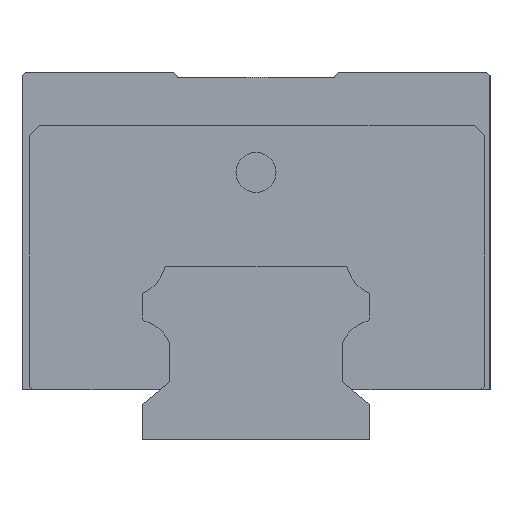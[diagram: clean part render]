
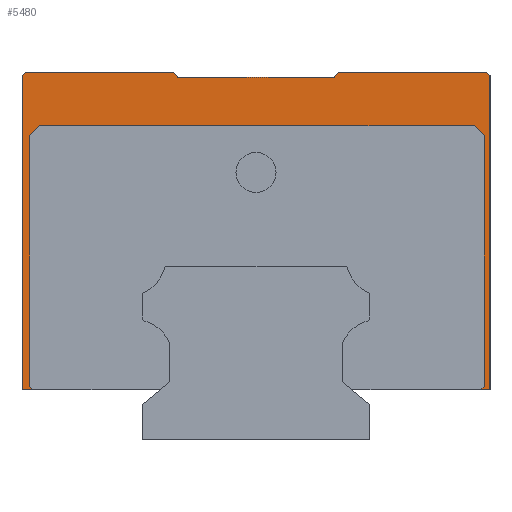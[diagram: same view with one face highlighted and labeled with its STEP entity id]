
A CAD part, left-side view. The second image highlights one B-rep face of the part: STEP entity #5480.
In plain terms, the highlighted planar face has unit normal (-1, 0, 0).
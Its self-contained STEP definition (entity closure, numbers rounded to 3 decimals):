
#90 = CARTESIAN_POINT ( 'NONE',  ( -39.5, 33.872, 8. ) ) ;
#116 = VERTEX_POINT ( 'NONE', #5495 ) ;
#129 = VECTOR ( 'NONE', #2929, 1000. ) ;
#159 = VERTEX_POINT ( 'NONE', #1956 ) ;
#194 = VECTOR ( 'NONE', #3862, 1000. ) ;
#202 = DIRECTION ( 'NONE',  ( 0., 1., 0. ) ) ;
#212 = CARTESIAN_POINT ( 'NONE',  ( -39.5, -33.628, 7.5 ) ) ;
#271 = CARTESIAN_POINT ( 'NONE',  ( -39.5, -35., 7.5 ) ) ;
#291 = EDGE_CURVE ( 'NONE', #2920, #2618, #4741, .T. ) ;
#298 = ORIENTED_EDGE ( 'NONE', *, *, #4988, .F. ) ;
#401 = CARTESIAN_POINT ( 'NONE',  ( -39.5, 34.5, 55. ) ) ;
#422 = LINE ( 'NONE', #886, #5327 ) ;
#490 = LINE ( 'NONE', #4486, #4830 ) ;
#496 = ORIENTED_EDGE ( 'NONE', *, *, #1206, .T. ) ;
#584 = LINE ( 'NONE', #90, #5305 ) ;
#608 = ORIENTED_EDGE ( 'NONE', *, *, #291, .F. ) ;
#642 = FACE_OUTER_BOUND ( 'NONE', #5741, .T. ) ;
#645 = ORIENTED_EDGE ( 'NONE', *, *, #5430, .T. ) ;
#866 = CARTESIAN_POINT ( 'NONE',  ( -39.5, 35., 7.5 ) ) ;
#886 = CARTESIAN_POINT ( 'NONE',  ( -39.5, -11.667, 54.25 ) ) ;
#943 = CARTESIAN_POINT ( 'NONE',  ( -39.5, -35., 7.5 ) ) ;
#955 = LINE ( 'NONE', #2249, #2457 ) ;
#997 = EDGE_CURVE ( 'NONE', #3751, #5178, #5005, .T. ) ;
#1058 = CARTESIAN_POINT ( 'NONE',  ( -39.5, 35., 55. ) ) ;
#1118 = EDGE_CURVE ( 'NONE', #4945, #4801, #1608, .T. ) ;
#1152 = VERTEX_POINT ( 'NONE', #5258 ) ;
#1162 = LINE ( 'NONE', #1587, #194 ) ;
#1206 = EDGE_CURVE ( 'NONE', #1152, #5288, #422, .T. ) ;
#1213 = CARTESIAN_POINT ( 'NONE',  ( -39.5, 33.372, 7.5 ) ) ;
#1343 = VERTEX_POINT ( 'NONE', #5497 ) ;
#1366 = EDGE_CURVE ( 'NONE', #2349, #4945, #3389, .T. ) ;
#1402 = EDGE_CURVE ( 'NONE', #4530, #2349, #2942, .T. ) ;
#1436 = VECTOR ( 'NONE', #2862, 1000. ) ;
#1444 = CARTESIAN_POINT ( 'NONE',  ( -39.5, 12.296, 55. ) ) ;
#1454 = ORIENTED_EDGE ( 'NONE', *, *, #4576, .F. ) ;
#1587 = CARTESIAN_POINT ( 'NONE',  ( -39.5, 32.372, 47. ) ) ;
#1608 = LINE ( 'NONE', #4778, #4573 ) ;
#1626 = DIRECTION ( 'NONE',  ( 0., 1., 0. ) ) ;
#1638 = DIRECTION ( 'NONE',  ( 0., 0., 1. ) ) ;
#1644 = VECTOR ( 'NONE', #1697, 1000. ) ;
#1697 = DIRECTION ( 'NONE',  ( 0., 0.707, 0.707 ) ) ;
#1722 = CARTESIAN_POINT ( 'NONE',  ( -39.5, -34.128, 8. ) ) ;
#1812 = CARTESIAN_POINT ( 'NONE',  ( -39.5, -34.128, 45.5 ) ) ;
#1888 = DIRECTION ( 'NONE',  ( 0., 0., -1. ) ) ;
#1956 = CARTESIAN_POINT ( 'NONE',  ( -39.5, 35., 54.5 ) ) ;
#1967 = CARTESIAN_POINT ( 'NONE',  ( -39.5, -35., 54.5 ) ) ;
#1996 = ORIENTED_EDGE ( 'NONE', *, *, #4877, .F. ) ;
#2037 = ORIENTED_EDGE ( 'NONE', *, *, #997, .F. ) ;
#2039 = ORIENTED_EDGE ( 'NONE', *, *, #2370, .T. ) ;
#2188 = DIRECTION ( 'NONE',  ( 0., 0.707, -0.707 ) ) ;
#2220 = LINE ( 'NONE', #401, #4939 ) ;
#2249 = CARTESIAN_POINT ( 'NONE',  ( -39.5, -12.296, 55. ) ) ;
#2280 = DIRECTION ( 'NONE',  ( 0., 0.643, 0.766 ) ) ;
#2288 = DIRECTION ( 'NONE',  ( 0., -1., 0. ) ) ;
#2306 = DIRECTION ( 'NONE',  ( 0., 1., 0. ) ) ;
#2349 = VERTEX_POINT ( 'NONE', #1812 ) ;
#2370 = EDGE_CURVE ( 'NONE', #5288, #4824, #490, .T. ) ;
#2426 = DIRECTION ( 'NONE',  ( 1., 0., 0. ) ) ;
#2437 = EDGE_CURVE ( 'NONE', #4133, #3751, #584, .T. ) ;
#2452 = CARTESIAN_POINT ( 'NONE',  ( -39.5, 35., 7.5 ) ) ;
#2457 = VECTOR ( 'NONE', #5477, 1000. ) ;
#2586 = ORIENTED_EDGE ( 'NONE', *, *, #3029, .F. ) ;
#2618 = VERTEX_POINT ( 'NONE', #4697 ) ;
#2714 = LINE ( 'NONE', #3256, #4297 ) ;
#2747 = ORIENTED_EDGE ( 'NONE', *, *, #5360, .T. ) ;
#2862 = DIRECTION ( 'NONE',  ( 0., 0.707, 0.707 ) ) ;
#2920 = VERTEX_POINT ( 'NONE', #943 ) ;
#2929 = DIRECTION ( 'NONE',  ( 0., 0., -1. ) ) ;
#2942 = LINE ( 'NONE', #1722, #3592 ) ;
#2993 = VERTEX_POINT ( 'NONE', #3407 ) ;
#3029 = EDGE_CURVE ( 'NONE', #5732, #4133, #4242, .T. ) ;
#3218 = ORIENTED_EDGE ( 'NONE', *, *, #3583, .T. ) ;
#3256 = CARTESIAN_POINT ( 'NONE',  ( -39.5, -35., 55. ) ) ;
#3265 = VERTEX_POINT ( 'NONE', #3739 ) ;
#3389 = LINE ( 'NONE', #3950, #1644 ) ;
#3407 = CARTESIAN_POINT ( 'NONE',  ( -39.5, 34.5, 55. ) ) ;
#3432 = DIRECTION ( 'NONE',  ( 0., -0.707, 0.707 ) ) ;
#3517 = CARTESIAN_POINT ( 'NONE',  ( -39.5, 32.372, 47. ) ) ;
#3555 = ORIENTED_EDGE ( 'NONE', *, *, #4816, .F. ) ;
#3583 = EDGE_CURVE ( 'NONE', #2993, #159, #2220, .T. ) ;
#3592 = VECTOR ( 'NONE', #1638, 1000. ) ;
#3602 = CARTESIAN_POINT ( 'NONE',  ( -39.5, 14.65, 7.5 ) ) ;
#3605 = AXIS2_PLACEMENT_3D ( 'NONE', #5174, #2426, #202 ) ;
#3662 = EDGE_CURVE ( 'NONE', #5178, #159, #5064, .T. ) ;
#3739 = CARTESIAN_POINT ( 'NONE',  ( -39.5, -12.296, 55. ) ) ;
#3740 = EDGE_CURVE ( 'NONE', #4801, #5732, #1162, .T. ) ;
#3751 = VERTEX_POINT ( 'NONE', #1213 ) ;
#3862 = DIRECTION ( 'NONE',  ( 0., 0.707, -0.707 ) ) ;
#3863 = PLANE ( 'NONE',  #3605 ) ;
#3899 = VECTOR ( 'NONE', #4224, 1000. ) ;
#3950 = CARTESIAN_POINT ( 'NONE',  ( -39.5, -34.128, 45.5 ) ) ;
#4078 = ORIENTED_EDGE ( 'NONE', *, *, #3662, .F. ) ;
#4133 = VERTEX_POINT ( 'NONE', #4664 ) ;
#4167 = CARTESIAN_POINT ( 'NONE',  ( -39.5, 11.667, 54.25 ) ) ;
#4212 = CARTESIAN_POINT ( 'NONE',  ( -39.5, 33.872, 45.5 ) ) ;
#4224 = DIRECTION ( 'NONE',  ( 0., 1., 0. ) ) ;
#4242 = LINE ( 'NONE', #5164, #129 ) ;
#4297 = VECTOR ( 'NONE', #1888, 1000. ) ;
#4318 = CARTESIAN_POINT ( 'NONE',  ( -39.5, 35., 55. ) ) ;
#4393 = ORIENTED_EDGE ( 'NONE', *, *, #1402, .F. ) ;
#4486 = CARTESIAN_POINT ( 'NONE',  ( -39.5, 11.667, 54.25 ) ) ;
#4530 = VERTEX_POINT ( 'NONE', #5015 ) ;
#4559 = VECTOR ( 'NONE', #1626, 1000. ) ;
#4566 = VECTOR ( 'NONE', #3432, 1000. ) ;
#4573 = VECTOR ( 'NONE', #5645, 1000. ) ;
#4576 = EDGE_CURVE ( 'NONE', #2618, #4530, #4792, .T. ) ;
#4656 = VECTOR ( 'NONE', #4680, 1000. ) ;
#4664 = CARTESIAN_POINT ( 'NONE',  ( -39.5, 33.872, 8. ) ) ;
#4680 = DIRECTION ( 'NONE',  ( 0., -1., 0. ) ) ;
#4686 = ORIENTED_EDGE ( 'NONE', *, *, #1366, .F. ) ;
#4697 = CARTESIAN_POINT ( 'NONE',  ( -39.5, -33.628, 7.5 ) ) ;
#4741 = LINE ( 'NONE', #271, #4559 ) ;
#4778 = CARTESIAN_POINT ( 'NONE',  ( -39.5, -32.628, 47. ) ) ;
#4787 = LINE ( 'NONE', #4318, #4656 ) ;
#4792 = LINE ( 'NONE', #212, #4566 ) ;
#4801 = VERTEX_POINT ( 'NONE', #3517 ) ;
#4816 = EDGE_CURVE ( 'NONE', #116, #2920, #2714, .T. ) ;
#4824 = VERTEX_POINT ( 'NONE', #1444 ) ;
#4830 = VECTOR ( 'NONE', #2280, 1000. ) ;
#4877 = EDGE_CURVE ( 'NONE', #2993, #4824, #5452, .T. ) ;
#4892 = ORIENTED_EDGE ( 'NONE', *, *, #2437, .F. ) ;
#4939 = VECTOR ( 'NONE', #2188, 1000. ) ;
#4945 = VERTEX_POINT ( 'NONE', #5006 ) ;
#4988 = EDGE_CURVE ( 'NONE', #3265, #1343, #4787, .T. ) ;
#5005 = LINE ( 'NONE', #3602, #3899 ) ;
#5006 = CARTESIAN_POINT ( 'NONE',  ( -39.5, -32.628, 47. ) ) ;
#5015 = CARTESIAN_POINT ( 'NONE',  ( -39.5, -34.128, 8. ) ) ;
#5064 = LINE ( 'NONE', #2452, #5796 ) ;
#5164 = CARTESIAN_POINT ( 'NONE',  ( -39.5, 33.872, 45.5 ) ) ;
#5174 = CARTESIAN_POINT ( 'NONE',  ( -39.5, -35., 55. ) ) ;
#5178 = VERTEX_POINT ( 'NONE', #866 ) ;
#5258 = CARTESIAN_POINT ( 'NONE',  ( -39.5, -11.667, 54.25 ) ) ;
#5288 = VERTEX_POINT ( 'NONE', #4167 ) ;
#5305 = VECTOR ( 'NONE', #5474, 1000. ) ;
#5327 = VECTOR ( 'NONE', #2306, 1000. ) ;
#5360 = EDGE_CURVE ( 'NONE', #3265, #1152, #955, .T. ) ;
#5423 = ORIENTED_EDGE ( 'NONE', *, *, #1118, .F. ) ;
#5430 = EDGE_CURVE ( 'NONE', #116, #1343, #5570, .T. ) ;
#5452 = LINE ( 'NONE', #1058, #5689 ) ;
#5474 = DIRECTION ( 'NONE',  ( 0., -0.707, -0.707 ) ) ;
#5477 = DIRECTION ( 'NONE',  ( 0., 0.643, -0.766 ) ) ;
#5480 = ADVANCED_FACE ( 'NONE', ( #642 ), #3863, .F. ) ;
#5495 = CARTESIAN_POINT ( 'NONE',  ( -39.5, -35., 54.5 ) ) ;
#5497 = CARTESIAN_POINT ( 'NONE',  ( -39.5, -34.5, 55. ) ) ;
#5570 = LINE ( 'NONE', #1967, #1436 ) ;
#5601 = ORIENTED_EDGE ( 'NONE', *, *, #3740, .F. ) ;
#5627 = DIRECTION ( 'NONE',  ( 0., 0., 1. ) ) ;
#5645 = DIRECTION ( 'NONE',  ( 0., 1., 0. ) ) ;
#5689 = VECTOR ( 'NONE', #2288, 1000. ) ;
#5732 = VERTEX_POINT ( 'NONE', #4212 ) ;
#5741 = EDGE_LOOP ( 'NONE', ( #4393, #1454, #608, #3555, #645, #298, #2747, #496, #2039, #1996, #3218, #4078, #2037, #4892, #2586, #5601, #5423, #4686 ) ) ;
#5796 = VECTOR ( 'NONE', #5627, 1000. ) ;
